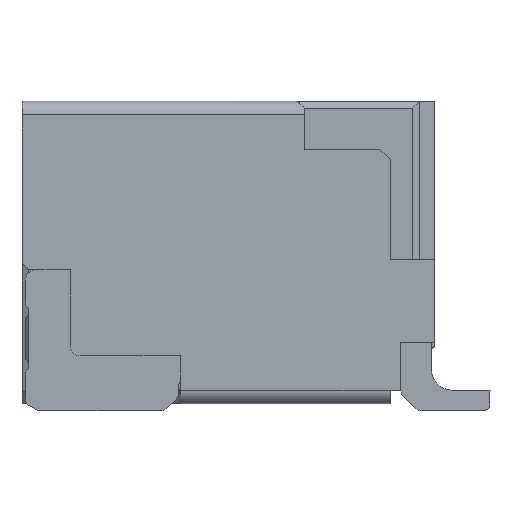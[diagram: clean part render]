
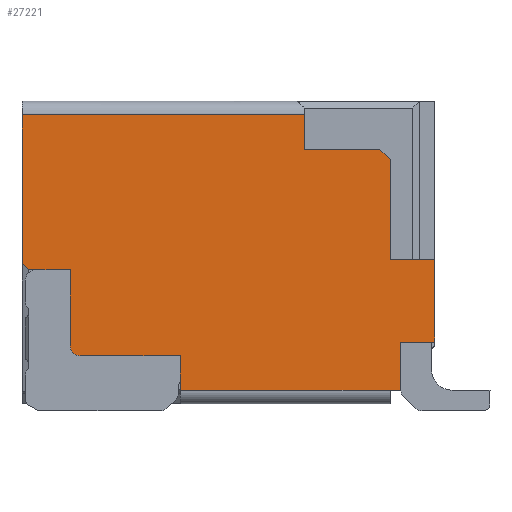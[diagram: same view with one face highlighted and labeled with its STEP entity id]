
A CAD part, left-side view. The second image highlights one B-rep face of the part: STEP entity #27221.
In plain terms, the highlighted planar face has unit normal (-1, 0, 0).
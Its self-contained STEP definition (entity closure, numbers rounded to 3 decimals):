
#45 = CARTESIAN_POINT ( 'NONE',  ( 0., 0.5, -3.5 ) ) ;
#97 = LINE ( 'NONE', #5901, #4784 ) ;
#364 = CARTESIAN_POINT ( 'NONE',  ( 0., 0.5, -3.5 ) ) ;
#653 = ORIENTED_EDGE ( 'NONE', *, *, #13915, .T. ) ;
#732 = CARTESIAN_POINT ( 'NONE',  ( 0., 3.7, -3.7 ) ) ;
#1002 = LINE ( 'NONE', #27412, #9097 ) ;
#1745 = DIRECTION ( 'NONE',  ( 0., 1., 0. ) ) ;
#1824 = ORIENTED_EDGE ( 'NONE', *, *, #6430, .T. ) ;
#1897 = VERTEX_POINT ( 'NONE', #16068 ) ;
#2004 = LINE ( 'NONE', #21174, #18496 ) ;
#2098 = VERTEX_POINT ( 'NONE', #20908 ) ;
#2250 = AXIS2_PLACEMENT_3D ( 'NONE', #2888, #10825, #13645 ) ;
#2539 = VECTOR ( 'NONE', #10057, 1000. ) ;
#2762 = VERTEX_POINT ( 'NONE', #6051 ) ;
#2888 = CARTESIAN_POINT ( 'NONE',  ( 0., 5.15, -3.55 ) ) ;
#3179 = EDGE_CURVE ( 'NONE', #4530, #10657, #33286, .T. ) ;
#3654 = VERTEX_POINT ( 'NONE', #8194 ) ;
#3998 = EDGE_CURVE ( 'NONE', #31704, #13897, #2004, .T. ) ;
#4233 = DIRECTION ( 'NONE',  ( 0., -1., 0. ) ) ;
#4530 = VERTEX_POINT ( 'NONE', #19417 ) ;
#4615 = EDGE_CURVE ( 'NONE', #34574, #2098, #9015, .T. ) ;
#4784 = VECTOR ( 'NONE', #16642, 1000. ) ;
#5653 = EDGE_CURVE ( 'NONE', #14558, #1897, #33824, .T. ) ;
#5901 = CARTESIAN_POINT ( 'NONE',  ( 0., 0., -3.5 ) ) ;
#5948 = DIRECTION ( 'NONE',  ( 0., 0., 1. ) ) ;
#6051 = CARTESIAN_POINT ( 'NONE',  ( 0., 0., -3.5 ) ) ;
#6204 = VERTEX_POINT ( 'NONE', #31837 ) ;
#6222 = DIRECTION ( 'NONE',  ( 0., -0.707, -0.707 ) ) ;
#6421 = VERTEX_POINT ( 'NONE', #12070 ) ;
#6430 = EDGE_CURVE ( 'NONE', #18574, #34574, #25960, .T. ) ;
#6466 = ORIENTED_EDGE ( 'NONE', *, *, #24700, .F. ) ;
#6688 = LINE ( 'NONE', #22535, #9766 ) ;
#6724 = DIRECTION ( 'NONE',  ( 0., 0., -1. ) ) ;
#6838 = EDGE_CURVE ( 'NONE', #1897, #3654, #34165, .T. ) ;
#6875 = EDGE_CURVE ( 'NONE', #6421, #24948, #33479, .T. ) ;
#7651 = LINE ( 'NONE', #31929, #29271 ) ;
#8074 = EDGE_CURVE ( 'NONE', #2762, #18574, #97, .T. ) ;
#8194 = CARTESIAN_POINT ( 'NONE',  ( 0., 0.65, -4.2 ) ) ;
#8362 = VERTEX_POINT ( 'NONE', #364 ) ;
#9015 = LINE ( 'NONE', #27159, #23050 ) ;
#9097 = VECTOR ( 'NONE', #5948, 1000. ) ;
#9185 = DIRECTION ( 'NONE',  ( 0., 0., -1. ) ) ;
#9353 = CARTESIAN_POINT ( 'NONE',  ( 0., 6., -0.2 ) ) ;
#9766 = VECTOR ( 'NONE', #4233, 1000. ) ;
#9948 = ORIENTED_EDGE ( 'NONE', *, *, #3998, .T. ) ;
#10057 = DIRECTION ( 'NONE',  ( 0., -1., 0. ) ) ;
#10657 = VERTEX_POINT ( 'NONE', #20111 ) ;
#10792 = DIRECTION ( 'NONE',  ( 0., -1., 0. ) ) ;
#10825 = DIRECTION ( 'NONE',  ( -1., 0., 0. ) ) ;
#11113 = EDGE_CURVE ( 'NONE', #3654, #33918, #6688, .T. ) ;
#11594 = ORIENTED_EDGE ( 'NONE', *, *, #11113, .T. ) ;
#11967 = ORIENTED_EDGE ( 'NONE', *, *, #12442, .T. ) ;
#12070 = CARTESIAN_POINT ( 'NONE',  ( 0., 5.3, -3.55 ) ) ;
#12236 = CARTESIAN_POINT ( 'NONE',  ( 0., 0., -2.3 ) ) ;
#12442 = EDGE_CURVE ( 'NONE', #6204, #4530, #7651, .T. ) ;
#12907 = DIRECTION ( 'NONE',  ( 0., 0., 1. ) ) ;
#13095 = VECTOR ( 'NONE', #15460, 1000. ) ;
#13267 = LINE ( 'NONE', #45, #14724 ) ;
#13461 = VECTOR ( 'NONE', #6724, 1000. ) ;
#13645 = DIRECTION ( 'NONE',  ( 0., 1., 0. ) ) ;
#13874 = VERTEX_POINT ( 'NONE', #26449 ) ;
#13897 = VERTEX_POINT ( 'NONE', #15555 ) ;
#13915 = EDGE_CURVE ( 'NONE', #13897, #6204, #15911, .T. ) ;
#13937 = LINE ( 'NONE', #732, #23572 ) ;
#14308 = CARTESIAN_POINT ( 'NONE',  ( 0., 0.5, -4.2 ) ) ;
#14558 = VERTEX_POINT ( 'NONE', #27383 ) ;
#14724 = VECTOR ( 'NONE', #10792, 1000. ) ;
#15453 = ORIENTED_EDGE ( 'NONE', *, *, #26459, .T. ) ;
#15460 = DIRECTION ( 'NONE',  ( 0., 1., 0. ) ) ;
#15487 = DIRECTION ( 'NONE',  ( 1., 0., 0. ) ) ;
#15555 = CARTESIAN_POINT ( 'NONE',  ( 0., 1.9, -0.7 ) ) ;
#15911 = LINE ( 'NONE', #28736, #19487 ) ;
#15919 = DIRECTION ( 'NONE',  ( 0., 1., 0. ) ) ;
#16068 = CARTESIAN_POINT ( 'NONE',  ( 0., 3.7, -4.2 ) ) ;
#16151 = ORIENTED_EDGE ( 'NONE', *, *, #25469, .T. ) ;
#16244 = DIRECTION ( 'NONE',  ( 0., 0., 1. ) ) ;
#16642 = DIRECTION ( 'NONE',  ( 0., 0., 1. ) ) ;
#16677 = CARTESIAN_POINT ( 'NONE',  ( 0., 0.8, -0.7 ) ) ;
#16766 = ORIENTED_EDGE ( 'NONE', *, *, #21590, .T. ) ;
#16923 = DIRECTION ( 'NONE',  ( 0., 1., 0. ) ) ;
#17145 = VECTOR ( 'NONE', #33645, 1000. ) ;
#17169 = ORIENTED_EDGE ( 'NONE', *, *, #21433, .T. ) ;
#18038 = DIRECTION ( 'NONE',  ( 0., 1., 0. ) ) ;
#18090 = CARTESIAN_POINT ( 'NONE',  ( 0., 5.3, -2.45 ) ) ;
#18119 = FACE_OUTER_BOUND ( 'NONE', #22962, .T. ) ;
#18208 = CARTESIAN_POINT ( 'NONE',  ( 0., 5.3, -2.45 ) ) ;
#18496 = VECTOR ( 'NONE', #15919, 1000. ) ;
#18574 = VERTEX_POINT ( 'NONE', #30066 ) ;
#18668 = VECTOR ( 'NONE', #18038, 1000. ) ;
#19417 = CARTESIAN_POINT ( 'NONE',  ( 0., 6., -0.2 ) ) ;
#19487 = VECTOR ( 'NONE', #12907, 1000. ) ;
#20111 = CARTESIAN_POINT ( 'NONE',  ( 0., 6., -2.35 ) ) ;
#20232 = CARTESIAN_POINT ( 'NONE',  ( 0., 3., -2.2 ) ) ;
#20908 = CARTESIAN_POINT ( 'NONE',  ( 0., 0.65, -0.85 ) ) ;
#20958 = EDGE_CURVE ( 'NONE', #14558, #13874, #13937, .T. ) ;
#21174 = CARTESIAN_POINT ( 'NONE',  ( 0., 0.8, -0.7 ) ) ;
#21433 = EDGE_CURVE ( 'NONE', #6421, #13874, #25869, .T. ) ;
#21531 = ORIENTED_EDGE ( 'NONE', *, *, #3179, .T. ) ;
#21590 = EDGE_CURVE ( 'NONE', #10657, #29460, #30333, .T. ) ;
#21874 = CARTESIAN_POINT ( 'NONE',  ( 0., 0.65, -0.85 ) ) ;
#22334 = ORIENTED_EDGE ( 'NONE', *, *, #20958, .F. ) ;
#22535 = CARTESIAN_POINT ( 'NONE',  ( 0., 0.65, -4.2 ) ) ;
#22962 = EDGE_LOOP ( 'NONE', ( #32529, #24614, #11594, #31043, #16151, #27417, #1824, #24219, #15453, #9948, #653, #11967, #21531, #16766, #6466, #30185, #17169, #22334 ) ) ;
#23050 = VECTOR ( 'NONE', #16244, 1000. ) ;
#23572 = VECTOR ( 'NONE', #16923, 1000. ) ;
#23666 = VECTOR ( 'NONE', #29970, 1000. ) ;
#24045 = LINE ( 'NONE', #18090, #13095 ) ;
#24219 = ORIENTED_EDGE ( 'NONE', *, *, #4615, .T. ) ;
#24614 = ORIENTED_EDGE ( 'NONE', *, *, #6838, .T. ) ;
#24698 = CARTESIAN_POINT ( 'NONE',  ( 0., 5.9, -2.45 ) ) ;
#24700 = EDGE_CURVE ( 'NONE', #24948, #29460, #24045, .T. ) ;
#24948 = VERTEX_POINT ( 'NONE', #18208 ) ;
#25281 = CARTESIAN_POINT ( 'NONE',  ( 0., 0.65, -2.3 ) ) ;
#25469 = EDGE_CURVE ( 'NONE', #8362, #2762, #13267, .T. ) ;
#25869 = CIRCLE ( 'NONE', #2250, 0.15 ) ;
#25911 = CARTESIAN_POINT ( 'NONE',  ( 0., 3.7, -4.2 ) ) ;
#25960 = LINE ( 'NONE', #12236, #18668 ) ;
#26449 = CARTESIAN_POINT ( 'NONE',  ( 0., 5.15, -3.7 ) ) ;
#26459 = EDGE_CURVE ( 'NONE', #2098, #31704, #26805, .T. ) ;
#26805 = LINE ( 'NONE', #21874, #23666 ) ;
#27159 = CARTESIAN_POINT ( 'NONE',  ( 0., 0.65, -2.3 ) ) ;
#27221 = ADVANCED_FACE ( 'NONE', ( #18119 ), #28846, .F. ) ;
#27383 = CARTESIAN_POINT ( 'NONE',  ( 0., 3.7, -3.7 ) ) ;
#27406 = EDGE_CURVE ( 'NONE', #33918, #8362, #1002, .T. ) ;
#27412 = CARTESIAN_POINT ( 'NONE',  ( 0., 0.5, -4.2 ) ) ;
#27417 = ORIENTED_EDGE ( 'NONE', *, *, #8074, .T. ) ;
#28021 = CARTESIAN_POINT ( 'NONE',  ( 0., 3.7, -3.7 ) ) ;
#28736 = CARTESIAN_POINT ( 'NONE',  ( 0., 1.9, -0.7 ) ) ;
#28846 = PLANE ( 'NONE',  #31007 ) ;
#28975 = VECTOR ( 'NONE', #9185, 1000. ) ;
#29271 = VECTOR ( 'NONE', #29300, 1000. ) ;
#29300 = DIRECTION ( 'NONE',  ( 0., 1., 0. ) ) ;
#29460 = VERTEX_POINT ( 'NONE', #24698 ) ;
#29970 = DIRECTION ( 'NONE',  ( 0., 0.707, 0.707 ) ) ;
#30066 = CARTESIAN_POINT ( 'NONE',  ( 0., 0., -2.3 ) ) ;
#30185 = ORIENTED_EDGE ( 'NONE', *, *, #6875, .F. ) ;
#30333 = LINE ( 'NONE', #32800, #32589 ) ;
#31007 = AXIS2_PLACEMENT_3D ( 'NONE', #20232, #15487, #1745 ) ;
#31018 = CARTESIAN_POINT ( 'NONE',  ( 0., 5.3, -3.55 ) ) ;
#31043 = ORIENTED_EDGE ( 'NONE', *, *, #27406, .T. ) ;
#31704 = VERTEX_POINT ( 'NONE', #16677 ) ;
#31837 = CARTESIAN_POINT ( 'NONE',  ( 0., 1.9, -0.2 ) ) ;
#31929 = CARTESIAN_POINT ( 'NONE',  ( 0., 1.9, -0.2 ) ) ;
#32529 = ORIENTED_EDGE ( 'NONE', *, *, #5653, .T. ) ;
#32589 = VECTOR ( 'NONE', #6222, 1000. ) ;
#32800 = CARTESIAN_POINT ( 'NONE',  ( 0., 6., -2.35 ) ) ;
#33286 = LINE ( 'NONE', #9353, #28975 ) ;
#33479 = LINE ( 'NONE', #31018, #17145 ) ;
#33645 = DIRECTION ( 'NONE',  ( 0., 0., 1. ) ) ;
#33824 = LINE ( 'NONE', #28021, #13461 ) ;
#33918 = VERTEX_POINT ( 'NONE', #14308 ) ;
#34165 = LINE ( 'NONE', #25911, #2539 ) ;
#34574 = VERTEX_POINT ( 'NONE', #25281 ) ;
